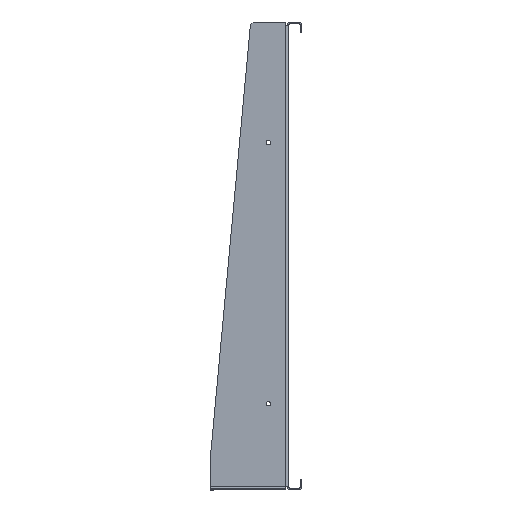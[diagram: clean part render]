
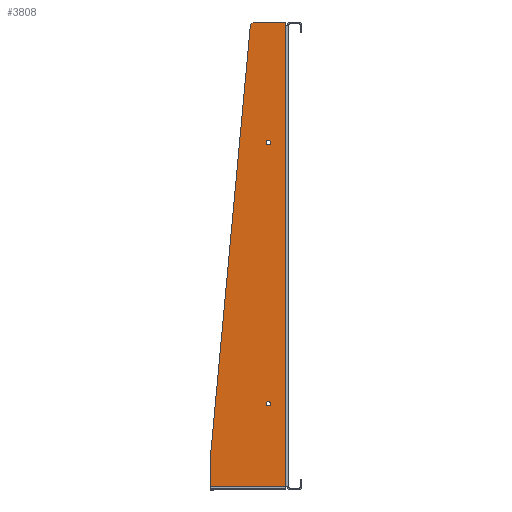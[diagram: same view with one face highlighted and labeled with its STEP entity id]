
A CAD part, left-side view. The second image highlights one B-rep face of the part: STEP entity #3808.
In plain terms, the highlighted planar face has unit normal (-1, 0, 0).
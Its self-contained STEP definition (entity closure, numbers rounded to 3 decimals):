
#1142 = CARTESIAN_POINT ( 'NONE',  ( -221., 19.5, -139.9 ) ) ;
#1143 = CARTESIAN_POINT ( 'NONE',  ( -221., 19.5, -144.1 ) ) ;
#1146 = CARTESIAN_POINT ( 'NONE',  ( -221., 19.5, 111.1 ) ) ;
#1148 = CARTESIAN_POINT ( 'NONE',  ( -221., 19.5, 106.9 ) ) ;
#1782 = AXIS2_PLACEMENT_3D ( 'NONE', #13670, #13671, #13672 ) ;
#1786 = FACE_OUTER_BOUND ( 'NONE', #9056, .T. ) ;
#1788 = FACE_BOUND ( 'NONE', #9057, .T. ) ;
#1804 = FACE_BOUND ( 'NONE', #8987, .T. ) ;
#1980 = AXIS2_PLACEMENT_3D ( 'NONE', #17030, #17031, #17032 ) ;
#1984 = AXIS2_PLACEMENT_3D ( 'NONE', #17018, #17019, #17020 ) ;
#2427 = ORIENTED_EDGE ( 'NONE', *, *, #11846, .T. ) ;
#2428 = ORIENTED_EDGE ( 'NONE', *, *, #11857, .T. ) ;
#2429 = ORIENTED_EDGE ( 'NONE', *, *, #11847, .F. ) ;
#2430 = ORIENTED_EDGE ( 'NONE', *, *, #11845, .F. ) ;
#2431 = ORIENTED_EDGE ( 'NONE', *, *, #11854, .T. ) ;
#2432 = ORIENTED_EDGE ( 'NONE', *, *, #11858, .F. ) ;
#2433 = ORIENTED_EDGE ( 'NONE', *, *, #11851, .F. ) ;
#2434 = ORIENTED_EDGE ( 'NONE', *, *, #3695, .F. ) ;
#2435 = ORIENTED_EDGE ( 'NONE', *, *, #11841, .F. ) ;
#2436 = ORIENTED_EDGE ( 'NONE', *, *, #3699, .F. ) ;
#2437 = ORIENTED_EDGE ( 'NONE', *, *, #11853, .F. ) ;
#3695 = EDGE_CURVE ( 'NONE', #4521, #4520, #12789, .T. ) ;
#3699 = EDGE_CURVE ( 'NONE', #4526, #4524, #12177, .T. ) ;
#3808 = ADVANCED_FACE ( 'NONE', ( #1804, #1788, #1786 ), #13669, .T. ) ;
#4520 = VERTEX_POINT ( 'NONE', #1142 ) ;
#4521 = VERTEX_POINT ( 'NONE', #1143 ) ;
#4524 = VERTEX_POINT ( 'NONE', #1146 ) ;
#4526 = VERTEX_POINT ( 'NONE', #1148 ) ;
#6300 = CARTESIAN_POINT ( 'NONE',  ( -221., 19.5, 109. ) ) ;
#6301 = DIRECTION ( 'NONE',  ( -1., 0., 0. ) ) ;
#6302 = DIRECTION ( 'NONE',  ( 0., -1., 0. ) ) ;
#6313 = LINE ( 'NONE', #6314, #8197 ) ;
#6314 = CARTESIAN_POINT ( 'NONE',  ( -221., 75.4, -195. ) ) ;
#6315 = DIRECTION ( 'NONE',  ( 0., -0.092, 0.996 ) ) ;
#6316 = LINE ( 'NONE', #6317, #8199 ) ;
#6317 = CARTESIAN_POINT ( 'NONE',  ( -221., 2.9, 225. ) ) ;
#6318 = DIRECTION ( 'NONE',  ( 0., 0., 1. ) ) ;
#6319 = LINE ( 'NONE', #6320, #8200 ) ;
#6320 = CARTESIAN_POINT ( 'NONE',  ( -221., 2.9, -222.1 ) ) ;
#6321 = DIRECTION ( 'NONE',  ( 0., 1., 0. ) ) ;
#6330 = CARTESIAN_POINT ( 'NONE',  ( -221., 19.5, -142. ) ) ;
#6331 = DIRECTION ( 'NONE',  ( -1., 0., 0. ) ) ;
#6332 = DIRECTION ( 'NONE',  ( 0., -1., 0. ) ) ;
#6337 = LINE ( 'NONE', #6338, #8206 ) ;
#6338 = CARTESIAN_POINT ( 'NONE',  ( -221., 75.4, 225. ) ) ;
#6339 = DIRECTION ( 'NONE',  ( 0., 0., 1. ) ) ;
#6340 = LINE ( 'NONE', #6341, #8207 ) ;
#6341 = CARTESIAN_POINT ( 'NONE',  ( -221., 16.197, 241.231 ) ) ;
#6342 = DIRECTION ( 'NONE',  ( 0., 0.739, -0.674 ) ) ;
#6349 = LINE ( 'NONE', #6350, #8210 ) ;
#6350 = CARTESIAN_POINT ( 'NONE',  ( -221., 2.9, 225. ) ) ;
#6351 = DIRECTION ( 'NONE',  ( 0., 0., 1. ) ) ;
#6352 = LINE ( 'NONE', #6353, #8211 ) ;
#6353 = CARTESIAN_POINT ( 'NONE',  ( -221., 1.4, 225. ) ) ;
#6354 = DIRECTION ( 'NONE',  ( 0., -1., 0. ) ) ;
#8168 = AXIS2_PLACEMENT_3D ( 'NONE', #6300, #6301, #6302 ) ;
#8194 = AXIS2_PLACEMENT_3D ( 'NONE', #6330, #6331, #6332 ) ;
#8197 = VECTOR ( 'NONE', #6315, 1000. ) ;
#8199 = VECTOR ( 'NONE', #6318, 1000. ) ;
#8200 = VECTOR ( 'NONE', #6321, 1000. ) ;
#8206 = VECTOR ( 'NONE', #6339, 1000. ) ;
#8207 = VECTOR ( 'NONE', #6342, 1000. ) ;
#8210 = VECTOR ( 'NONE', #6351, 1000. ) ;
#8211 = VECTOR ( 'NONE', #6354, 1000. ) ;
#8987 = EDGE_LOOP ( 'NONE', ( #2436, #2435 ) ) ;
#9056 = EDGE_LOOP ( 'NONE', ( #2432, #2431, #2430, #2437, #2429, #2428, #2427 ) ) ;
#9057 = EDGE_LOOP ( 'NONE', ( #2434, #2433 ) ) ;
#10335 = VERTEX_POINT ( 'NONE', #15656 ) ;
#10337 = VERTEX_POINT ( 'NONE', #15658 ) ;
#10338 = VERTEX_POINT ( 'NONE', #15659 ) ;
#10341 = VERTEX_POINT ( 'NONE', #15662 ) ;
#10343 = VERTEX_POINT ( 'NONE', #15664 ) ;
#10345 = VERTEX_POINT ( 'NONE', #15666 ) ;
#10348 = VERTEX_POINT ( 'NONE', #15669 ) ;
#11841 = EDGE_CURVE ( 'NONE', #4524, #4526, #12516, .T. ) ;
#11845 = EDGE_CURVE ( 'NONE', #10343, #10335, #6313, .T. ) ;
#11846 = EDGE_CURVE ( 'NONE', #10345, #10337, #6316, .T. ) ;
#11847 = EDGE_CURVE ( 'NONE', #10348, #10341, #6319, .T. ) ;
#11851 = EDGE_CURVE ( 'NONE', #4520, #4521, #12513, .T. ) ;
#11853 = EDGE_CURVE ( 'NONE', #10341, #10343, #6337, .T. ) ;
#11854 = EDGE_CURVE ( 'NONE', #10338, #10335, #6340, .T. ) ;
#11857 = EDGE_CURVE ( 'NONE', #10348, #10345, #6349, .T. ) ;
#11858 = EDGE_CURVE ( 'NONE', #10338, #10337, #6352, .T. ) ;
#12177 = CIRCLE ( 'NONE', #1980, 2.1 ) ;
#12513 = CIRCLE ( 'NONE', #8194, 2.1 ) ;
#12516 = CIRCLE ( 'NONE', #8168, 2.1 ) ;
#12789 = CIRCLE ( 'NONE', #1984, 2.1 ) ;
#13669 = PLANE ( 'NONE',  #1782 ) ;
#13670 = CARTESIAN_POINT ( 'NONE',  ( -221., 1.4, 225. ) ) ;
#13671 = DIRECTION ( 'NONE',  ( -1., 0., 0. ) ) ;
#13672 = DIRECTION ( 'NONE',  ( 0., -1., 0. ) ) ;
#15656 = CARTESIAN_POINT ( 'NONE',  ( -221., 36.731, 222.511 ) ) ;
#15658 = CARTESIAN_POINT ( 'NONE',  ( -221., 2.9, 225. ) ) ;
#15659 = CARTESIAN_POINT ( 'NONE',  ( -221., 34., 225. ) ) ;
#15662 = CARTESIAN_POINT ( 'NONE',  ( -221., 75.4, -222.1 ) ) ;
#15664 = CARTESIAN_POINT ( 'NONE',  ( -221., 75.4, -195. ) ) ;
#15666 = CARTESIAN_POINT ( 'NONE',  ( -221., 2.9, 222.1 ) ) ;
#15669 = CARTESIAN_POINT ( 'NONE',  ( -221., 2.9, -222.1 ) ) ;
#17018 = CARTESIAN_POINT ( 'NONE',  ( -221., 19.5, -142. ) ) ;
#17019 = DIRECTION ( 'NONE',  ( -1., 0., 0. ) ) ;
#17020 = DIRECTION ( 'NONE',  ( 0., -1., 0. ) ) ;
#17030 = CARTESIAN_POINT ( 'NONE',  ( -221., 19.5, 109. ) ) ;
#17031 = DIRECTION ( 'NONE',  ( -1., 0., 0. ) ) ;
#17032 = DIRECTION ( 'NONE',  ( 0., -1., 0. ) ) ;
